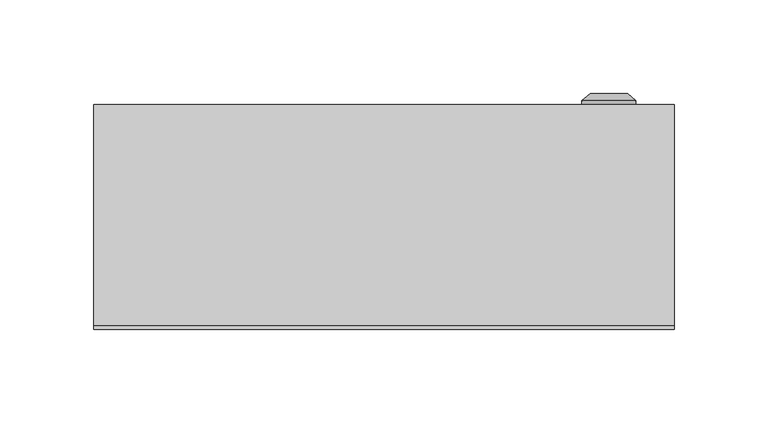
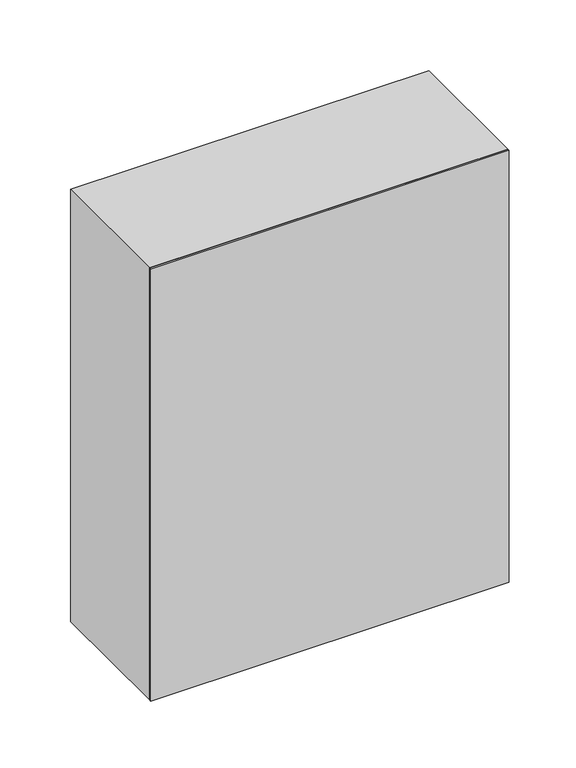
"""IFC4 building model written with IfcOpenShell, lengths in millimetres: proxy geometry, ЩРН_18-24 : ЩРН-18."""

from ifc_helpers import new_model, si_unit, frame, origin, origin_with_axes, place, context, project, spatial, polyline, circle_curve, outline, extrude, source, transform, mapped, element, save
from ifc_brep_helpers import plane_surface, cylinder_surface, revolved_surface, advanced_brep


def electrical_equipment_5cb46348(model_context):
    return source(origin(), model_context, "Body", "SolidModel", [
        advanced_brep(
        [(105.669873, 120.0, 192.5), (134.330127, 120.0, 192.5), (120.0, 120.0, 192.5), (105.669873, 122.366592, 192.5), (134.330127, 122.366592, 192.5), (110.0, 126.0, 192.5), (130.0, 126.0, 192.5), (118.1080471, 126.0, 192.5), (121.8919529, 126.0, 192.5), (118.1080471, 124.9822294, 192.5), (121.8919529, 124.9822294, 192.5), (120.0, 124.9822294, 192.5)],
        [
            (0, 1, circle_curve(frame((120.0, 120.0, 192.5), z_axis=(0.0, -1.0, 0.0), x_axis=(1.0, 0.0, 0.0)), 14.330127)),
            (1, 2),
            (2, 0),
            (1, 0, circle_curve(frame((120.0, 120.0, 192.5), z_axis=(0.0, -1.0, 0.0), x_axis=(1.0, 0.0, 0.0)), 14.330127)),
            (3, 4, circle_curve(frame((120.0, 122.366592, 192.5), z_axis=(0.0, -1.0, 0.0), x_axis=(1.0, 0.0, 0.0)), 14.330127)),
            (4, 1),
            (0, 3),
            (4, 3, circle_curve(frame((120.0, 122.366592, 192.5), z_axis=(0.0, -1.0, 0.0), x_axis=(1.0, 0.0, 0.0)), 14.330127)),
            (5, 6, circle_curve(frame((120.0, 126.0, 192.5), z_axis=(0.0, -1.0, 0.0), x_axis=(1.0, 0.0, 0.0)), 10.0)),
            (6, 4),
            (3, 5),
            (6, 5, circle_curve(frame((120.0, 126.0, 192.5), z_axis=(0.0, -1.0, 0.0), x_axis=(1.0, 0.0, 0.0)), 10.0)),
            (7, 8, circle_curve(frame((120.0, 126.0, 192.5), z_axis=(0.0, -1.0, 0.0), x_axis=(1.0, 0.0, 0.0)), 1.8919529)),
            (8, 6),
            (5, 7),
            (8, 7, circle_curve(frame((120.0, 126.0, 192.5), z_axis=(0.0, -1.0, 0.0), x_axis=(1.0, 0.0, 0.0)), 1.8919529)),
            (9, 10, circle_curve(frame((120.0, 124.9822294, 192.5), z_axis=(0.0, -1.0, 0.0), x_axis=(1.0, 0.0, 0.0)), 1.8919529)),
            (10, 8),
            (7, 9),
            (10, 9, circle_curve(frame((120.0, 124.9822294, 192.5), z_axis=(0.0, -1.0, 0.0), x_axis=(1.0, 0.0, 0.0)), 1.8919529)),
            (11, 10),
            (9, 11),
        ],
        [
            plane_surface(frame((120.0, 120.0, 192.5), z_axis=(0.0, -1.0, 0.0), x_axis=(1.0, 0.0, 0.0))),
            cylinder_surface(frame((120.0, 133.1348851, 192.5), z_axis=(0.0, 1.0, 0.0), x_axis=(1.0, 0.0, 0.0)), 14.330127),
            revolved_surface(polyline([(134.330127, 122.366592, 192.5), (130.0, 126.0, 192.5)]), (120.0, 133.1348851, 192.5), (0.0, 1.0, 0.0)),
            plane_surface(frame((120.0, 126.0, 192.5), z_axis=(0.0, 1.0, 0.0), x_axis=(1.0, 0.0, 0.0))),
            revolved_surface(polyline([(121.8919529, 126.0, 192.5), (121.8919529, 124.9822294, 192.5)]), (120.0, 133.1348851, 192.5), (0.0, 1.0, 0.0)),
            plane_surface(frame((120.0, 124.9822294, 192.5), z_axis=(0.0, 1.0, 0.0), x_axis=(1.0, 0.0, 0.0))),
        ],
        [
            (0, [[1, 2, 3]]),
            (0, [[4, -3, -2]]),
            (1, [[5, 6, -1, 7]]),
            (1, [[8, -7, -4, -6]]),
            (2, [[9, 10, -5, 11]]),
            (2, [[12, -11, -8, -10]]),
            (3, [[13, 14, -9, 15]]),
            (3, [[16, -15, -12, -14]]),
            (4, [[17, 18, -13, 19]]),
            (4, [[20, -19, -16, -18]]),
            (5, [[21, -17, 22]]),
            (5, [[-22, -20, -21]]),
        ],
    ),
        extrude(outline(polyline([(149.0, 95.0), (-149.0, 95.0), (-149.0, 120.0), (149.0, 120.0), (149.0, 95.0)])), frame((0.0, 0.0, 6.0), z_axis=(0.0, 0.0, 1.0), x_axis=(1.0, 0.0, 0.0)), (0.0, 0.0, 1.0), 383.0),
        extrude(outline(polyline([(395.0, -155.0033905), (0.0, -155.0033905), (0.0, 154.9966095), (395.0, 154.9966095), (395.0, -155.0033905)]), holes=[polyline([(390.0, -150.0), (390.0, 150.0), (5.0, 150.0), (5.0, -150.0), (390.0, -150.0)])]), frame((0.0, 2.0, 0.0), z_axis=(0.0, 1.0, 0.0), x_axis=(0.0, 0.0, 1.0)), (0.0, 0.0, 1.0), 118.0),
        extrude(outline(polyline([(155.0, 0.0), (-155.0, 0.0), (-155.0, 2.0), (155.0, 2.0), (155.0, 0.0)])), origin_with_axes(), (0.0, 0.0, 1.0), 395.0),
    ])


if __name__ == "__main__":
    model = new_model("IFC4")
    model_context = context("Model", 3, world=origin())
    ifc_project = project(units=[si_unit("LENGTHUNIT", "METRE", prefix="MILLI")], contexts=[model_context])
    site = spatial("IfcSite", under=ifc_project)
    building = spatial("IfcBuilding", under=site)
    placement = place(None, origin())
    electrical_equipment_shape = electrical_equipment_5cb46348(model_context)
    element("IfcBuildingElementProxy", 1, Name="ЩРН_18-24 : ЩРН-18", ObjectType="ЩРН_18-24 : ЩРН-18", at=placement, inside=building, context=model_context, shape_type="MappedRepresentation", body=[
        mapped(electrical_equipment_shape, transform((0.0, 0.0, 0.0), x_axis=(1.0, 0.0, 0.0), y_axis=(0.0, 1.0, 0.0), z_axis=(0.0, 0.0, 1.0))),
    ])
    save(model, "model.ifc")
